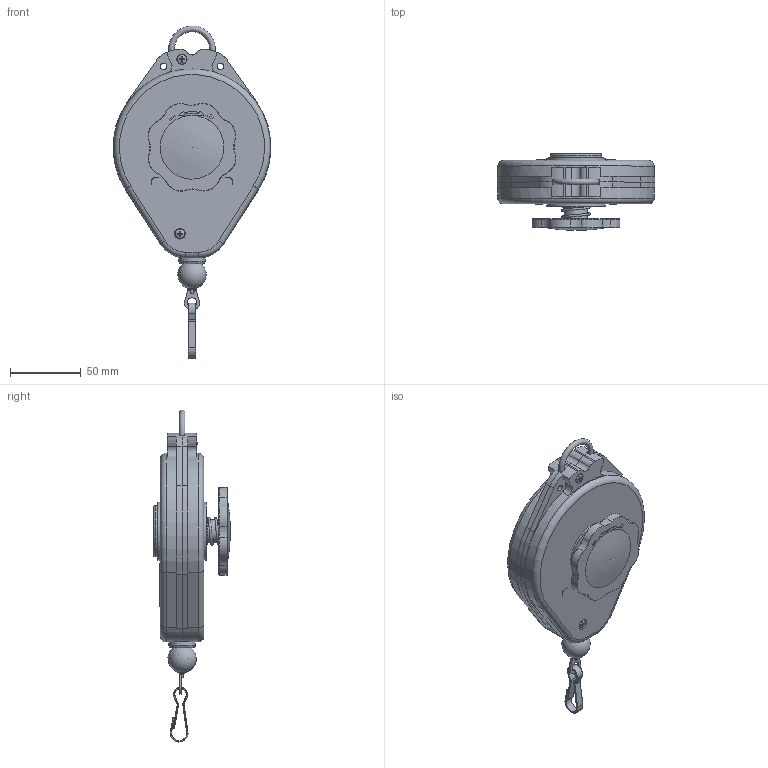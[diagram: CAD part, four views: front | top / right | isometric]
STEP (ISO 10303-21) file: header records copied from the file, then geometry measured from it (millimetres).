
FILE_DESCRIPTION((''),'2;1');
FILE_NAME('C:\Dokumente und Einstellungen\frank.bucher\Desktop\002-5200000001-A.stp','2009-01-22T15:33:20',('frank.bucher'),(''),'Autodesk Inventor 2008','Autodesk Inventor 2008','');
FILE_SCHEMA(('AUTOMOTIVE_DESIGN { 1 0 10303 214 1 1 1 1 }'));
Length unit declared in the file: millimetre
Products named in the file (16): Federzug; 002-005_100404-P; Seil; 002-00_6000358-PG; 002-00_6000038-P; 002-005_170005-P; 002-00_6000208-P; 002-005_035602-P; 002-005_075552-PG; 002-005_105008-P; 002-005_250075-P; 002-005_280053-P; 002-005_315400-P; 002-00_0000546-P; 002-00_0000547-P; 002-00_6000051-P
Assembly tree (19 placements, depth 3):
  Federzug
    002-005_100404-P  x2
    Seil
      002-00_6000358-PG
      002-00_6000038-P
      002-005_170005-P
      002-00_6000208-P
    002-005_035602-P
    002-005_075552-PG
    002-005_105008-P
    002-005_250075-P
    002-005_280053-P
    002-005_315400-P
    002-00_0000546-P  x4
    002-00_0000547-P
    002-00_6000051-P
Bounding box: 111.16 x 53.96 x 234.1 mm (x, y, z)
Volume: 141689.5 mm3; surface area: 101510.1 mm2
Topology: 18 solids, 18 shells, 1019 faces, 2573 edges, 1662 vertices
Faces by surface type: plane 425, cylinder 283, bspline 142, torus 99, cone 62, sphere 8
Full cylindrical faces by diameter (mm): 2 x2, 2.5 x3, 3.5 x5, 4 x1, 5.5 x1, 6 x4, 6.7 x1, 8 x2, 8.2 x1, 9 x1, 12 x4, 13.2 x1, 15.7 x1, 16 x3, 17 x2, 18.5 x1, 25 x1, 36.257 x1, 41 x2
Entity records: 27788 total; most frequent: CARTESIAN_POINT 10688, DIRECTION 3461, ORIENTED_EDGE 3414, EDGE_CURVE 1707, AXIS2_PLACEMENT_3D 1330, VERTEX_POINT 1131, EDGE_LOOP 840, VECTOR 801
